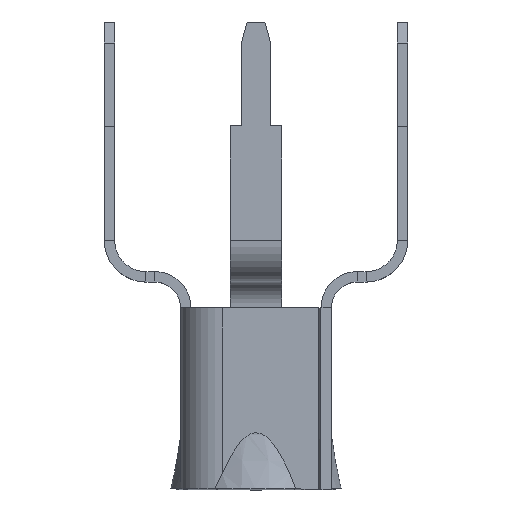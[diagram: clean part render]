
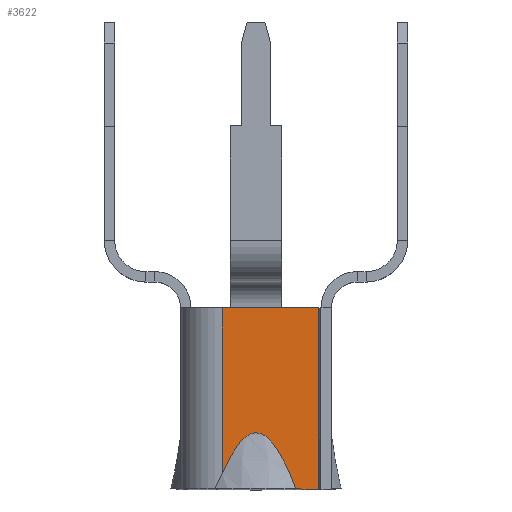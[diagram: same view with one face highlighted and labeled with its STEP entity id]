
A CAD part, top view. The second image highlights one B-rep face of the part: STEP entity #3622.
In plain terms, the highlighted planar face has unit normal (0, 0, 1).
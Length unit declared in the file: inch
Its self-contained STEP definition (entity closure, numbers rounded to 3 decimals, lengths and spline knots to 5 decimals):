
#2762=DIRECTION('',(-0.999,0.044,0.));
#2763=VECTOR('',#2762,0.02174);
#2764=CARTESIAN_POINT('',(0.06,0.,0.0725));
#2765=LINE('',#2764,#2763);
#2923=CARTESIAN_POINT('',(-0.0325,0.01533,0.0725));
#2924=CARTESIAN_POINT('',(-0.03144,0.0178,0.0725));
#2925=CARTESIAN_POINT('',(-0.02932,0.0225,0.0725));
#2926=CARTESIAN_POINT('',(-0.02621,0.0288,0.0725));
#2927=CARTESIAN_POINT('',(-0.02314,0.03442,0.0725));
#2928=CARTESIAN_POINT('',(-0.02009,0.03936,0.0725));
#2929=CARTESIAN_POINT('',(-0.01705,0.04365,0.0725));
#2930=CARTESIAN_POINT('',(-0.01397,0.04731,0.0725));
#2931=CARTESIAN_POINT('',(-0.01089,0.05027,0.0725));
#2932=CARTESIAN_POINT('',(-0.00774,0.05254,0.0725));
#2933=CARTESIAN_POINT('',(-0.00467,0.05402,0.0725));
#2934=CARTESIAN_POINT('',(-0.00168,0.05475,0.0725));
#2935=CARTESIAN_POINT('',(0.00121,0.0548,0.0725));
#2936=CARTESIAN_POINT('',(0.00413,0.0542,0.0725));
#2937=CARTESIAN_POINT('',(0.00716,0.05288,0.0725));
#2938=CARTESIAN_POINT('',(0.01028,0.05076,0.0725));
#2939=CARTESIAN_POINT('',(0.01334,0.04796,0.0725));
#2940=CARTESIAN_POINT('',(0.01641,0.04446,0.0725));
#2941=CARTESIAN_POINT('',(0.01944,0.04033,0.0725));
#2942=CARTESIAN_POINT('',(0.02248,0.03555,0.0725));
#2943=CARTESIAN_POINT('',(0.02552,0.03012,0.0725));
#2944=CARTESIAN_POINT('',(0.02861,0.02401,0.0725));
#2945=CARTESIAN_POINT('',(0.03175,0.01716,0.0725));
#2946=CARTESIAN_POINT('',(0.03496,0.00955,0.0725));
#2947=CARTESIAN_POINT('',(0.03716,0.00391,0.0725));
#2948=CARTESIAN_POINT('',(0.03828,0.00096,0.0725));
#2950=DIRECTION('',(0.,1.,0.));
#2951=VECTOR('',#2950,0.175);
#2952=CARTESIAN_POINT('',(0.06,0.,0.0725));
#2953=LINE('',#2952,#2951);
#2954=DIRECTION('',(0.,1.,0.));
#2955=VECTOR('',#2954,0.15967);
#2956=CARTESIAN_POINT('',(-0.0325,0.01533,0.0725));
#2957=LINE('',#2956,#2955);
#3022=DIRECTION('',(-1.,0.,0.));
#3023=VECTOR('',#3022,0.0925);
#3024=CARTESIAN_POINT('',(0.06,0.175,0.0725));
#3025=LINE('',#3024,#3023);
#3261=CARTESIAN_POINT('',(0.06,0.175,0.0725));
#3262=CARTESIAN_POINT('',(-0.0325,0.175,0.0725));
#3263=VERTEX_POINT('',#3261);
#3264=VERTEX_POINT('',#3262);
#3277=CARTESIAN_POINT('',(0.06,0.,0.0725));
#3278=VERTEX_POINT('',#3277);
#3281=VERTEX_POINT('',#2923);
#3282=VERTEX_POINT('',#2948);
#3607=CARTESIAN_POINT('',(0.06,0.,0.0725));
#3608=DIRECTION('',(0.,0.,1.));
#3609=DIRECTION('',(-1.,0.,0.));
#3610=AXIS2_PLACEMENT_3D('',#3607,#3608,#3609);
#3611=PLANE('',#3610);
#3612=ORIENTED_EDGE('',*,*,#3549,.F.);
#3614=ORIENTED_EDGE('',*,*,#3613,.T.);
#3616=ORIENTED_EDGE('',*,*,#3615,.F.);
#3618=ORIENTED_EDGE('',*,*,#3617,.F.);
#3619=ORIENTED_EDGE('',*,*,#3464,.T.);
#3620=EDGE_LOOP('',(#3612,#3614,#3616,#3618,#3619));
#3621=FACE_OUTER_BOUND('',#3620,.F.);
#3622=ADVANCED_FACE('',(#3621),#3611,.T.);
#2949=B_SPLINE_CURVE_WITH_KNOTS('',3,(#2923,#2924,#2925,#2926,#2927,#2928,#2929,
#2930,#2931,#2932,#2933,#2934,#2935,#2936,#2937,#2938,#2939,#2940,#2941,#2942,
#2943,#2944,#2945,#2946,#2947,#2948),.UNSPECIFIED.,.F.,.F.,(4,1,1,1,1,1,1,1,1,1,
1,1,1,1,1,1,1,1,1,1,1,1,1,4),(0.,0.04348,0.08696,
0.13043,0.17391,0.21739,0.26087,
0.30435,0.34783,0.3913,0.43478,
0.47826,0.52174,0.56522,0.6087,
0.65217,0.69565,0.73913,0.78261,
0.82609,0.86957,0.91304,0.95652,1.),
.UNSPECIFIED.);
#3464=EDGE_CURVE('',#3278,#3282,#2765,.T.);
#3549=EDGE_CURVE('',#3281,#3282,#2949,.T.);
#3613=EDGE_CURVE('',#3281,#3264,#2957,.T.);
#3615=EDGE_CURVE('',#3263,#3264,#3025,.T.);
#3617=EDGE_CURVE('',#3278,#3263,#2953,.T.);
